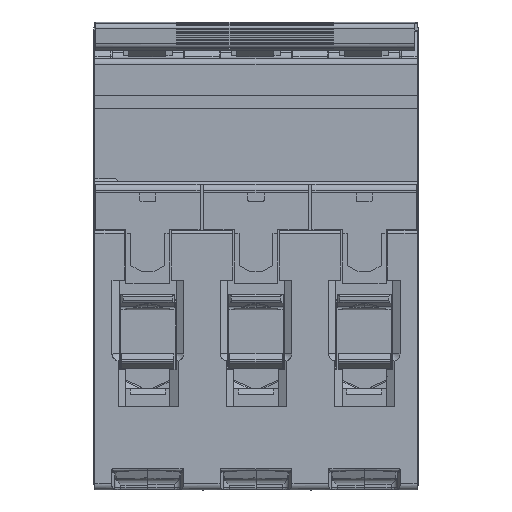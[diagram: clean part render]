
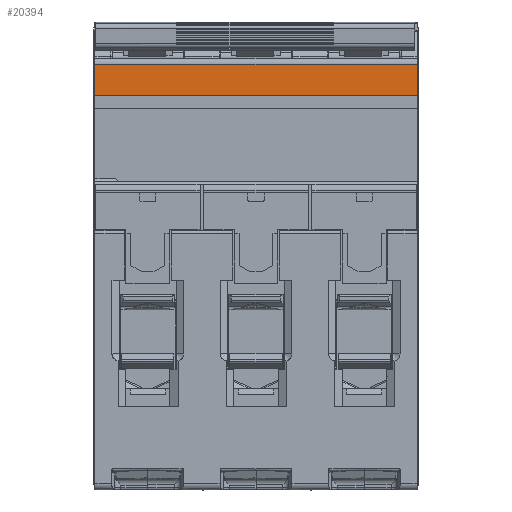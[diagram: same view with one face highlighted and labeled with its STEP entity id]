
A CAD part, front view. The second image highlights one B-rep face of the part: STEP entity #20394.
In plain terms, the highlighted planar face has unit normal (0, -1, 0).
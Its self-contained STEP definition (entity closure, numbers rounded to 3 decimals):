
#3430 = ORIENTED_EDGE ( 'NONE', *, *, #92031, .T. ) ;
#8811 = AXIS2_PLACEMENT_3D ( 'NONE', #40805, #147086, #56298 ) ;
#19161 = LINE ( 'NONE', #117739, #176152 ) ;
#20394 = ADVANCED_FACE ( 'NONE', ( #195876 ), #176759, .T. ) ;
#24632 = VECTOR ( 'NONE', #160799, 1000. ) ;
#27920 = ORIENTED_EDGE ( 'NONE', *, *, #102559, .T. ) ;
#29432 = LINE ( 'NONE', #83531, #24632 ) ;
#40805 = CARTESIAN_POINT ( 'NONE',  ( 0.567, -20.109, 12.549 ) ) ;
#43396 = EDGE_CURVE ( 'NONE', #136203, #77436, #19161, .T. ) ;
#49163 = DIRECTION ( 'NONE',  ( 0., 0., -1. ) ) ;
#54996 = CARTESIAN_POINT ( 'NONE',  ( 0.567, -20.109, 26.649 ) ) ;
#56298 = DIRECTION ( 'NONE',  ( 1., 0., 0. ) ) ;
#63446 = LINE ( 'NONE', #140060, #99349 ) ;
#67754 = VERTEX_POINT ( 'NONE', #138556 ) ;
#71500 = VERTEX_POINT ( 'NONE', #78447 ) ;
#77436 = VERTEX_POINT ( 'NONE', #133027 ) ;
#78447 = CARTESIAN_POINT ( 'NONE',  ( -16.833, -20.109, 26.649 ) ) ;
#83531 = CARTESIAN_POINT ( 'NONE',  ( 0.567, -20.109, 31.649 ) ) ;
#92031 = EDGE_CURVE ( 'NONE', #136203, #67754, #29432, .T. ) ;
#97392 = LINE ( 'NONE', #54996, #137353 ) ;
#99349 = VECTOR ( 'NONE', #49163, 1000. ) ;
#102559 = EDGE_CURVE ( 'NONE', #67754, #71500, #63446, .T. ) ;
#112387 = ORIENTED_EDGE ( 'NONE', *, *, #43396, .F. ) ;
#117739 = CARTESIAN_POINT ( 'NONE',  ( 35.567, -20.109, -31.351 ) ) ;
#132733 = DIRECTION ( 'NONE',  ( 0., 0., -1. ) ) ;
#133027 = CARTESIAN_POINT ( 'NONE',  ( 35.567, -20.109, 26.649 ) ) ;
#136203 = VERTEX_POINT ( 'NONE', #179189 ) ;
#137353 = VECTOR ( 'NONE', #145760, 1000. ) ;
#138556 = CARTESIAN_POINT ( 'NONE',  ( -16.833, -20.109, 31.649 ) ) ;
#140060 = CARTESIAN_POINT ( 'NONE',  ( -16.833, -20.109, 12.549 ) ) ;
#145760 = DIRECTION ( 'NONE',  ( 1., 0., 0. ) ) ;
#147086 = DIRECTION ( 'NONE',  ( 0., -1., 0. ) ) ;
#148121 = EDGE_LOOP ( 'NONE', ( #160434, #112387, #3430, #27920 ) ) ;
#160434 = ORIENTED_EDGE ( 'NONE', *, *, #180274, .T. ) ;
#160799 = DIRECTION ( 'NONE',  ( -1., 0., 0. ) ) ;
#176152 = VECTOR ( 'NONE', #132733, 1000. ) ;
#176759 = PLANE ( 'NONE',  #8811 ) ;
#179189 = CARTESIAN_POINT ( 'NONE',  ( 35.567, -20.109, 31.649 ) ) ;
#180274 = EDGE_CURVE ( 'NONE', #71500, #77436, #97392, .T. ) ;
#195876 = FACE_OUTER_BOUND ( 'NONE', #148121, .T. ) ;
